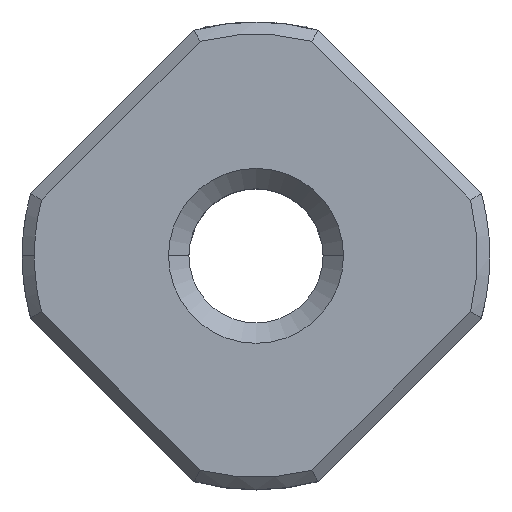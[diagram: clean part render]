
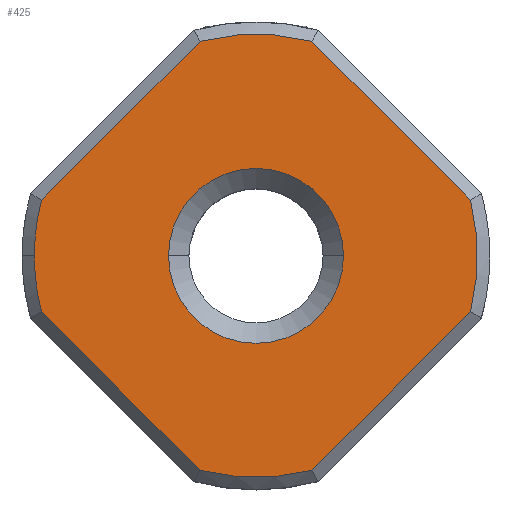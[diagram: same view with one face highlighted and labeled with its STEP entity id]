
A CAD part, top view. The second image highlights one B-rep face of the part: STEP entity #425.
In plain terms, the highlighted planar face has unit normal (0, 0, 1).
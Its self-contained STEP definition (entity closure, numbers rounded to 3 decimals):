
#243 = EDGE_CURVE ( 'NONE', #244, #245, #1093, .T. ) ;
#244 = VERTEX_POINT ( 'NONE', #1084 ) ;
#245 = VERTEX_POINT ( 'NONE', #1083 ) ;
#272 = VERTEX_POINT ( 'NONE', #1110 ) ;
#274 = EDGE_CURVE ( 'NONE', #275, #272, #1109, .T. ) ;
#275 = VERTEX_POINT ( 'NONE', #1170 ) ;
#348 = ORIENTED_EDGE ( 'NONE', *, *, #349, .T. ) ;
#349 = EDGE_CURVE ( 'NONE', #350, #351, #1278, .T. ) ;
#350 = VERTEX_POINT ( 'NONE', #1273 ) ;
#351 = VERTEX_POINT ( 'NONE', #1272 ) ;
#352 = ORIENTED_EDGE ( 'NONE', *, *, #353, .T. ) ;
#353 = EDGE_CURVE ( 'NONE', #351, #354, #1271, .T. ) ;
#354 = VERTEX_POINT ( 'NONE', #1267 ) ;
#355 = ORIENTED_EDGE ( 'NONE', *, *, #356, .T. ) ;
#356 = EDGE_CURVE ( 'NONE', #354, #411, #1265, .T. ) ;
#399 = EDGE_CURVE ( 'NONE', #423, #350, #1388, .T. ) ;
#411 = VERTEX_POINT ( 'NONE', #1409 ) ;
#412 = ORIENTED_EDGE ( 'NONE', *, *, #413, .T. ) ;
#413 = EDGE_CURVE ( 'NONE', #411, #414, #1408, .T. ) ;
#414 = VERTEX_POINT ( 'NONE', #1404 ) ;
#415 = ORIENTED_EDGE ( 'NONE', *, *, #416, .T. ) ;
#416 = EDGE_CURVE ( 'NONE', #414, #244, #1403, .T. ) ;
#417 = ORIENTED_EDGE ( 'NONE', *, *, #243, .T. ) ;
#418 = ORIENTED_EDGE ( 'NONE', *, *, #419, .T. ) ;
#419 = EDGE_CURVE ( 'NONE', #245, #420, #1398, .T. ) ;
#420 = VERTEX_POINT ( 'NONE', #1394 ) ;
#421 = ORIENTED_EDGE ( 'NONE', *, *, #422, .T. ) ;
#422 = EDGE_CURVE ( 'NONE', #420, #423, #1458, .T. ) ;
#423 = VERTEX_POINT ( 'NONE', #1453 ) ;
#424 = ORIENTED_EDGE ( 'NONE', *, *, #399, .T. ) ;
#425 = ADVANCED_FACE ( 'NONE', ( #1452, #1451 ), #1450, .T. ) ;
#426 = EDGE_LOOP ( 'NONE', ( #427, #428 ) ) ;
#427 = ORIENTED_EDGE ( 'NONE', *, *, #274, .T. ) ;
#428 = ORIENTED_EDGE ( 'NONE', *, *, #429, .T. ) ;
#429 = EDGE_CURVE ( 'NONE', #272, #275, #1445, .T. ) ;
#430 = EDGE_LOOP ( 'NONE', ( #348, #352, #355, #412, #415, #417, #418, #421, #424 ) ) ;
#584 = AXIS2_PLACEMENT_3D ( 'NONE', #590, #589, #857 ) ;
#589 = DIRECTION ( 'NONE',  ( 0., 0., -1. ) ) ;
#590 = CARTESIAN_POINT ( 'NONE',  ( 0., 0., 0. ) ) ;
#857 = DIRECTION ( 'NONE',  ( 1., 0., 0. ) ) ;
#1083 = CARTESIAN_POINT ( 'NONE',  ( -5.274, -1.372, 0. ) ) ;
#1084 = CARTESIAN_POINT ( 'NONE',  ( -5.45, 0., 0. ) ) ;
#1085 = DIRECTION ( 'NONE',  ( 1., 0., 0. ) ) ;
#1086 = DIRECTION ( 'NONE',  ( 0., 0., 1. ) ) ;
#1087 = CARTESIAN_POINT ( 'NONE',  ( 0., 0., 0. ) ) ;
#1088 = AXIS2_PLACEMENT_3D ( 'NONE', #1087, #1086, #1085 ) ;
#1093 = CIRCLE ( 'NONE', #1088, 5.45 ) ;
#1109 = CIRCLE ( 'NONE', #584, 2.15 ) ;
#1110 = CARTESIAN_POINT ( 'NONE',  ( -2.15, 0., 0. ) ) ;
#1170 = CARTESIAN_POINT ( 'NONE',  ( 2.15, 0., 0. ) ) ;
#1262 = DIRECTION ( 'NONE',  ( 0., 0., 1. ) ) ;
#1263 = CARTESIAN_POINT ( 'NONE',  ( 0., 0., 0. ) ) ;
#1264 = AXIS2_PLACEMENT_3D ( 'NONE', #1263, #1262, #1324 ) ;
#1265 = CIRCLE ( 'NONE', #1264, 5.45 ) ;
#1267 = CARTESIAN_POINT ( 'NONE',  ( 1.372, 5.274, 0. ) ) ;
#1268 = DIRECTION ( 'NONE',  ( -0.707, 0.707, 0. ) ) ;
#1269 = VECTOR ( 'NONE', #1268, 1000. ) ;
#1270 = CARTESIAN_POINT ( 'NONE',  ( -0.212, 6.859, 0. ) ) ;
#1271 = LINE ( 'NONE', #1270, #1269 ) ;
#1272 = CARTESIAN_POINT ( 'NONE',  ( 5.274, 1.372, 0. ) ) ;
#1273 = CARTESIAN_POINT ( 'NONE',  ( 5.274, -1.372, 0. ) ) ;
#1274 = DIRECTION ( 'NONE',  ( 1., 0., 0. ) ) ;
#1275 = DIRECTION ( 'NONE',  ( 0., 0., 1. ) ) ;
#1276 = CARTESIAN_POINT ( 'NONE',  ( 0., 0., 0. ) ) ;
#1277 = AXIS2_PLACEMENT_3D ( 'NONE', #1276, #1275, #1274 ) ;
#1278 = CIRCLE ( 'NONE', #1277, 5.45 ) ;
#1324 = DIRECTION ( 'NONE',  ( 1., 0., 0. ) ) ;
#1381 = DIRECTION ( 'NONE',  ( 0.707, 0.707, 0. ) ) ;
#1382 = VECTOR ( 'NONE', #1381, 1000. ) ;
#1383 = CARTESIAN_POINT ( 'NONE',  ( 6.859, 0.212, 0. ) ) ;
#1388 = LINE ( 'NONE', #1383, #1382 ) ;
#1394 = CARTESIAN_POINT ( 'NONE',  ( -1.372, -5.274, 0. ) ) ;
#1395 = DIRECTION ( 'NONE',  ( 0.707, -0.707, 0. ) ) ;
#1396 = VECTOR ( 'NONE', #1395, 1000. ) ;
#1397 = CARTESIAN_POINT ( 'NONE',  ( -6.859, 0.212, 0. ) ) ;
#1398 = LINE ( 'NONE', #1397, #1396 ) ;
#1399 = DIRECTION ( 'NONE',  ( 1., 0., 0. ) ) ;
#1400 = DIRECTION ( 'NONE',  ( 0., 0., 1. ) ) ;
#1401 = CARTESIAN_POINT ( 'NONE',  ( 0., 0., 0. ) ) ;
#1402 = AXIS2_PLACEMENT_3D ( 'NONE', #1401, #1400, #1399 ) ;
#1403 = CIRCLE ( 'NONE', #1402, 5.45 ) ;
#1404 = CARTESIAN_POINT ( 'NONE',  ( -5.274, 1.372, 0. ) ) ;
#1405 = DIRECTION ( 'NONE',  ( -0.707, -0.707, 0. ) ) ;
#1406 = VECTOR ( 'NONE', #1405, 1000. ) ;
#1407 = CARTESIAN_POINT ( 'NONE',  ( 0.212, 6.859, 0. ) ) ;
#1408 = LINE ( 'NONE', #1407, #1406 ) ;
#1409 = CARTESIAN_POINT ( 'NONE',  ( -1.372, 5.274, 0. ) ) ;
#1441 = DIRECTION ( 'NONE',  ( 1., 0., 0. ) ) ;
#1442 = DIRECTION ( 'NONE',  ( 0., 0., -1. ) ) ;
#1443 = CARTESIAN_POINT ( 'NONE',  ( 0., 0., 0. ) ) ;
#1444 = AXIS2_PLACEMENT_3D ( 'NONE', #1443, #1442, #1441 ) ;
#1445 = CIRCLE ( 'NONE', #1444, 2.15 ) ;
#1446 = DIRECTION ( 'NONE',  ( 1., 0., 0. ) ) ;
#1447 = DIRECTION ( 'NONE',  ( 0., 0., 1. ) ) ;
#1448 = CARTESIAN_POINT ( 'NONE',  ( 0., 7.071, 0. ) ) ;
#1449 = AXIS2_PLACEMENT_3D ( 'NONE', #1448, #1447, #1446 ) ;
#1450 = PLANE ( 'NONE',  #1449 ) ;
#1451 = FACE_OUTER_BOUND ( 'NONE', #430, .T. ) ;
#1452 = FACE_BOUND ( 'NONE', #426, .T. ) ;
#1453 = CARTESIAN_POINT ( 'NONE',  ( 1.372, -5.274, 0. ) ) ;
#1454 = DIRECTION ( 'NONE',  ( 1., 0., 0. ) ) ;
#1455 = DIRECTION ( 'NONE',  ( 0., 0., 1. ) ) ;
#1456 = CARTESIAN_POINT ( 'NONE',  ( 0., 0., 0. ) ) ;
#1457 = AXIS2_PLACEMENT_3D ( 'NONE', #1456, #1455, #1454 ) ;
#1458 = CIRCLE ( 'NONE', #1457, 5.45 ) ;
